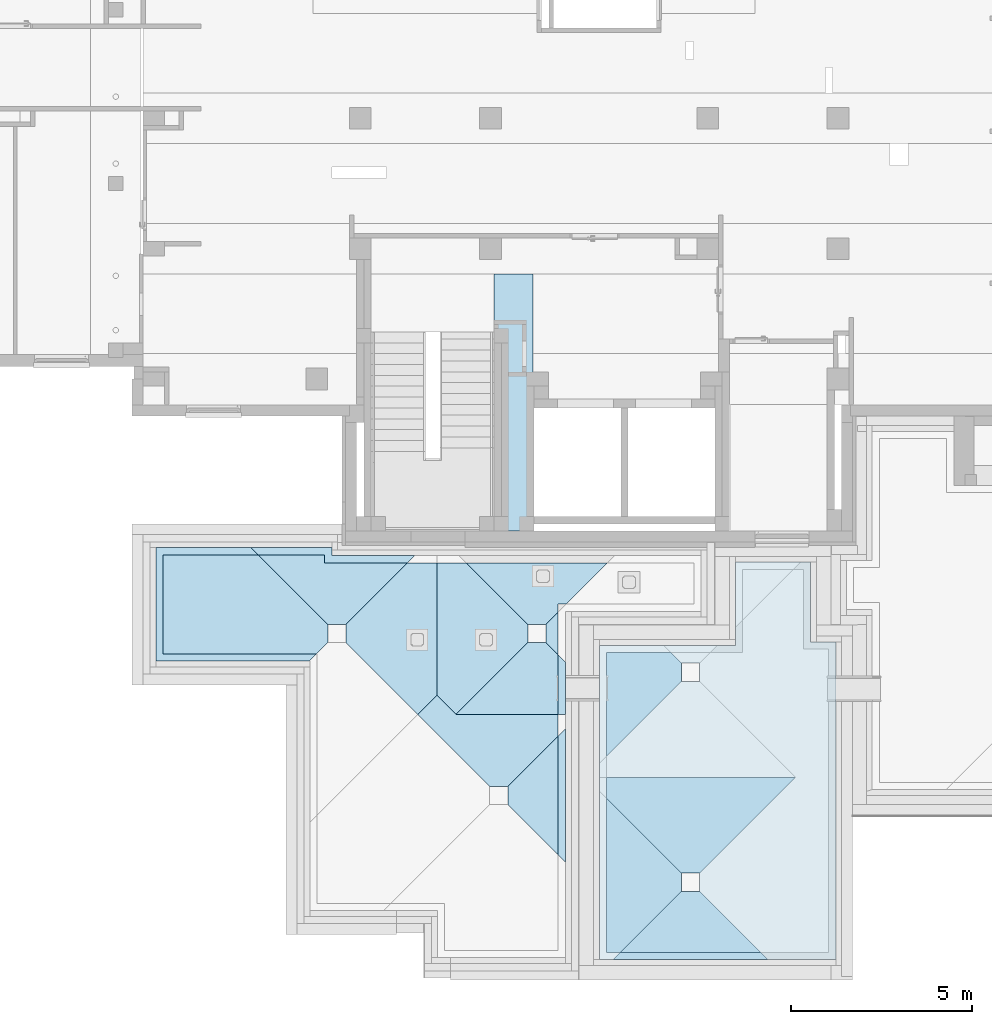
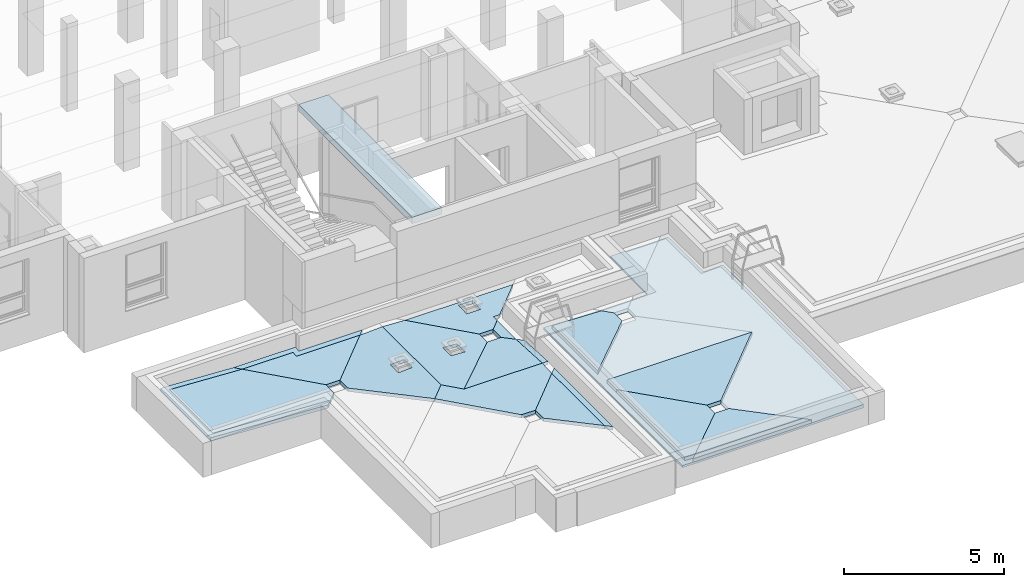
# One storey, part 4 of 50: 20 slabs, 4 elements without a shape of their own.
"""IFC4 building model written with IfcOpenShell, lengths in metres."""

from ifc_helpers import new_model, entity, si_unit, converted_unit, derived_unit, frame, frame_2d, origin, origin_with_axes, place, context, subcontext, project, spatial, polyline, rectangle, outline, extrude, clip, bounded_halfspace, material, layer, layer_set, layer_usage, element, aggregate, save


model = new_model("IFC4")

# Units and contexts
model_context = context("Model", 3, precision=1e-05, world=origin())
body_context = subcontext(model_context, "Body", "Model", "MODEL_VIEW")
ifc_project = project(units=[si_unit("LENGTHUNIT", "METRE"), si_unit("AREAUNIT", "SQUARE_METRE"), si_unit("VOLUMEUNIT", "CUBIC_METRE"), si_unit("MASSUNIT", "GRAM", prefix="KILO"), converted_unit("PLANEANGLEUNIT", "DEGREE", entity("IfcPlaneAngleMeasure", 0.0174532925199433), si_unit("PLANEANGLEUNIT", "RADIAN"), dimensions=[0, 0, 0, 0, 0, 0, 0]), derived_unit("THERMALTRANSMITTANCEUNIT", [(si_unit("POWERUNIT", "WATT"), 1), (si_unit("THERMODYNAMICTEMPERATUREUNIT", "KELVIN"), -1), (si_unit("LENGTHUNIT", "METRE"), -2)]), derived_unit("VOLUMETRICFLOWRATEUNIT", [(si_unit("LENGTHUNIT", "METRE"), 3), (converted_unit("TIMEUNIT", "hour", entity("IfcTimeMeasure", 3600.0), si_unit("TIMEUNIT", "SECOND"), dimensions=[0, 0, 1, 0, 0, 0, 0]), -1), (si_unit("LENGTHUNIT", "METRE"), -1)])], contexts=[model_context])

# Site, building, storey
site_placement = place(None, origin())
site = spatial("IfcSite", under=ifc_project, at=site_placement, Name="3. ASŘ", CompositionType="ELEMENT")
building_placement = place(site_placement, origin())
building = spatial("IfcBuilding", under=site, at=building_placement, Name="Pavilon C", CompositionType="ELEMENT")
storey_placement = place(building_placement, frame((0.0, 0.0, 3.6)))
storey = spatial("IfcBuildingStorey", under=building, at=storey_placement, Name="Půdorys 2.NP", CompositionType="ELEMENT", Elevation=3.6)

# Slab
ifc_material_1 = material(Name="VĚNEC")
slab_1_placement = place(storey_placement, frame((34.45, -4.19999999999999, 3.25)))
element("IfcSlab", 1, at=slab_1_placement, inside=storey, material=ifc_material_1, PredefinedType="FLOOR", context=body_context, shape_type="SweptSolid", body=[
    extrude(rectangle(XDim=7.09999999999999, YDim=1.07, at=frame_2d((-0.535, 3.55), x_axis=(0.0, 1.0))), frame((1.07, 0.0, 0.0), z_axis=(0.0, 0.0, 1.0), x_axis=(1.0, 0.0, 0.0)), (0.0, 0.0, 1.0), 0.25),
])

# Roof, slabs
roof_1_placement = place(storey_placement, frame((0.0, 0.0, -3.6)))
roof_1 = element("IfcRoof", 2, at=roof_1_placement, inside=storey, PredefinedType="NOTDEFINED")
ifc_material_2 = material(Name="ASFALTOVÁ HYDROIZOLACE")
ifc_layer_1 = layer(ifc_material_2, 0.01)
ifc_material_3 = material(Name="II.S2 - KAČÍREK")
ifc_layer_2 = layer(ifc_material_3, 0.12)
ifc_layer_set_1 = layer_set([ifc_layer_1, ifc_layer_2])
ifc_layer_usage_1 = layer_usage(ifc_layer_set_1, "AXIS3", "POSITIVE", 0.0)
slab_2_placement = place(roof_1_placement, frame((36.22, -13.3428061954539, 3.83304686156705)))
slab_2 = element("IfcSlab", 3, at=slab_2_placement, material=ifc_layer_usage_1, PredefinedType="ROOF", context=body_context, shape_type="SweptSolid", body=[
    extrude(outline(polyline([(-1.8438171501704, -0.100137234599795), (1.8438171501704, -0.100137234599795), (1.64381715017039, 0.100137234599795), (-1.6438171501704, 0.100137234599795), (-1.8438171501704, -0.100137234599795)])), frame((0.100000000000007, 1.8438171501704, 0.0052407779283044), z_axis=(-0.0523359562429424, -1.62762239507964e-19, 0.998629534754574), x_axis=(-3.10995061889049e-18, 1.0, 0.0)), (0.0, -0.0523359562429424, 0.998629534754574), 0.130178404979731),
])
ifc_material_4 = material(Name="ASFALTOVÁ HYDROIZOLACE")
ifc_layer_3 = layer(ifc_material_4, 0.01)
ifc_material_5 = material(Name="II.S2 - KAČÍREK")
ifc_layer_4 = layer(ifc_material_5, 0.12)
ifc_layer_set_2 = layer_set([ifc_layer_3, ifc_layer_4])
ifc_layer_usage_2 = layer_usage(ifc_layer_set_2, "AXIS3", "POSITIVE", 0.0)
slab_3_placement = place(roof_1_placement, frame((36.22, -9.26449541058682, 3.77781864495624)))
slab_3 = element("IfcSlab", 4, at=slab_3_placement, material=ifc_layer_usage_2, PredefinedType="ROOF", context=body_context, shape_type="SweptSolid", body=[
    extrude(outline(polyline([(-0.100000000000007, -0.773306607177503), (0.1, -0.773306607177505), (0.100000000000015, 0.673169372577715), (-0.1, 0.873443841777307), (-0.100000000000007, -0.773306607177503)])), frame((0.100000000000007, 0.77224681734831, 0.0457125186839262), z_axis=(-6.26113130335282e-16, 0.0523359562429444, 0.998629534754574), x_axis=(1.0, 1.19633455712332e-14, 0.0)), (0.0, -0.0523359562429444, 0.998629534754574), 0.130178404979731),
])
ifc_material_6 = material(Name="ASFALTOVÁ HYDROIZOLACE")
ifc_layer_5 = layer(ifc_material_6, 0.01)
ifc_material_7 = material(Name="II.S2 - KAČÍREK")
ifc_layer_6 = layer(ifc_material_7, 0.12)
ifc_layer_set_3 = layer_set([ifc_layer_5, ifc_layer_6])
ifc_layer_usage_3 = layer_usage(ifc_layer_set_3, "AXIS3", "POSITIVE", 0.0)
slab_4_placement = place(roof_1_placement, frame((27.7371938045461, -5.08, 3.84909331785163)))
slab_4 = element("IfcSlab", 5, at=slab_4_placement, material=ifc_layer_usage_3, PredefinedType="ROOF", context=body_context, shape_type="SweptSolid", body=[
    extrude(outline(polyline([(-2.32359956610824, 0.0100137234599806), (-0.0364022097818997, 0.0100137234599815), (-0.0364022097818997, -0.210288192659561), (2.19640398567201, -0.210288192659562), (1.996403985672, -0.010013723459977), (0.163597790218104, -0.0100137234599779), (0.163597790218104, 0.210288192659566), (-2.12359956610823, 0.210288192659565), (-2.32359956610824, 0.0100137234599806)])), frame((2.19640398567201, 0.210000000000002, 0.0110056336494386), z_axis=(-5.25388289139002e-18, -0.0523359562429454, 0.998629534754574), x_axis=(-1.0, 1.00387635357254e-16, 0.0)), (0.0, -0.0523359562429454, 0.998629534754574), 0.130178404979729),
])
ifc_material_8 = material(Name="ASFALTOVÁ HYDROIZOLACE")
ifc_layer_7 = layer(ifc_material_8, 0.01)
ifc_material_9 = material(Name="II.S2 - KAČÍREK")
ifc_layer_8 = layer(ifc_material_9, 0.12)
ifc_layer_set_4 = layer_set([ifc_layer_7, ifc_layer_8])
ifc_layer_usage_4 = layer_usage(ifc_layer_set_4, "AXIS3", "POSITIVE", 0.0)
slab_5_placement = place(roof_1_placement, frame((25.11, -7.79000000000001, 3.77624631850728)))
slab_5 = element("IfcSlab", 6, at=slab_5_placement, material=ifc_layer_usage_4, PredefinedType="ROOF", context=body_context, shape_type="SweptSolid", body=[
    extrude(outline(polyline([(-1.36500000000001, 1.01248358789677), (-1.56500000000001, 0.812209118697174), (-1.565, -1.81859010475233), (1.56500000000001, -1.81859010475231), (1.56499999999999, 2.42442215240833), (1.36499999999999, 2.62469662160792), (1.36500000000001, -1.61831563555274), (-1.365, -1.61831563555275), (-1.36500000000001, 1.01248358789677)])), frame((1.81609779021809, 1.56500000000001, 0.137366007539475), z_axis=(0.052335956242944, -2.64676689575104e-16, 0.998629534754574), x_axis=(-5.05726289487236e-15, -1.0, 0.0)), (0.0, -0.052335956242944, 0.998629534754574), 0.130178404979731),
])
aggregate(roof_1, [slab_2, slab_3, slab_4, slab_5])

roof_2_placement = place(storey_placement, frame((0.0, 0.0, -3.6)))
roof_2 = element("IfcRoof", 7, at=roof_2_placement, inside=storey, PredefinedType="NOTDEFINED")
ifc_material_10 = material(Name="ASFALTOVÁ HYDROIZOLACE")
ifc_layer_9 = layer(ifc_material_10, 0.01)
ifc_material_11 = material(Name="II.S1 - SOUVRSTVÍ ZELENÉ STŘECHY")
ifc_layer_10 = layer(ifc_material_11, 0.12)
ifc_layer_set_5 = layer_set([ifc_layer_9, ifc_layer_10])
ifc_layer_usage_5 = layer_usage(ifc_layer_set_5, "AXIS3", "POSITIVE", 0.0)
slab_6_placement = place(roof_2_placement, frame((34.8261828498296, -13.1428061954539, 3.76)))
slab_6 = element("IfcSlab", 8, at=slab_6_placement, material=ifc_layer_usage_5, PredefinedType="ROOF", context=body_context, shape_type="SweptSolid", body=[
    extrude(outline(polyline([(-0.249999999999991, 0.69786497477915), (-1.64381715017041, -0.697864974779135), (1.64381715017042, -0.697864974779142), (0.249999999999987, 0.697864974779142), (-0.249999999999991, 0.69786497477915)])), frame((0.696908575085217, 1.64381715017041, 0.0365234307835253), z_axis=(-0.0523359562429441, -1.93144452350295e-17, 0.998629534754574), x_axis=(-3.69047336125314e-16, 1.0, 0.0)), (0.0, -0.0523359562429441, 0.998629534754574), 0.130178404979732),
])
ifc_material_12 = material(Name="ASFALTOVÁ HYDROIZOLACE")
ifc_layer_11 = layer(ifc_material_12, 0.01)
ifc_material_13 = material(Name="II.S1 - SOUVRSTVÍ ZELENÉ STŘECHY")
ifc_layer_12 = layer(ifc_material_13, 0.12)
ifc_layer_set_6 = layer_set([ifc_layer_11, ifc_layer_12])
ifc_layer_usage_6 = layer_usage(ifc_layer_set_6, "AXIS3", "POSITIVE", 0.0)
slab_7_placement = place(roof_2_placement, frame((32.3416892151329, -11.2489890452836, 3.76)))
slab_7 = element("IfcSlab", 9, at=slab_7_placement, material=ifc_layer_usage_6, PredefinedType="ROOF", context=body_context, shape_type="SweptSolid", body=[
    extrude(outline(polyline([(-1.90597727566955, -0.576898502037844), (0.918516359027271, -0.576898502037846), (1.44542493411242, -1.10453017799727), (1.9723335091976, -0.576898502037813), (-0.0121601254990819, 1.41031854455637), (-0.512160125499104, 1.41031854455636), (-1.90597727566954, 0.0145885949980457), (-1.90597727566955, -0.576898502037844)])), frame((1.9723335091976, 1.40838575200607, 0.0738103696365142), z_axis=(2.24823732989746e-16, -0.0523359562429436, 0.998629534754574), x_axis=(-1.0, -4.29577959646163e-15, 0.0)), (0.0, -0.0523359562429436, 0.998629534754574), 0.130178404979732),
])
ifc_material_14 = material(Name="ASFALTOVÁ HYDROIZOLACE")
ifc_layer_13 = layer(ifc_material_14, 0.01)
ifc_material_15 = material(Name="II.S1 - SOUVRSTVÍ ZELENÉ STŘECHY")
ifc_layer_14 = layer(ifc_material_15, 0.12)
ifc_layer_set_7 = layer_set([ifc_layer_13, ifc_layer_14])
ifc_layer_usage_7 = layer_usage(ifc_layer_set_7, "AXIS3", "POSITIVE", 0.0)
slab_8_placement = place(roof_2_placement, frame((33.3955063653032, -9.26449541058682, 3.76)))
slab_8 = element("IfcSlab", 10, at=slab_8_placement, material=ifc_layer_usage_7, PredefinedType="ROOF", context=body_context, shape_type="SweptSolid", body=[
    extrude(outline(polyline([(0.800898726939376, 0.522513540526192), (0.46089872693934, 0.862980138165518), (-0.0391012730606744, 0.862980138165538), (-2.02359490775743, -1.12423690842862), (0.800898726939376, -1.12423690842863), (0.800898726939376, 0.522513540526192)])), frame((2.02359490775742, 1.12269618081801, 0.0451648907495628), z_axis=(-2.32473235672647e-16, 0.0523359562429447, 0.998629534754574), x_axis=(1.0, 4.44194111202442e-15, 0.0)), (0.0, -0.0523359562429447, 0.998629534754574), 0.13017840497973),
])
ifc_material_16 = material(Name="ASFALTOVÁ HYDROIZOLACE")
ifc_layer_15 = layer(ifc_material_16, 0.01)
ifc_material_17 = material(Name="II.S1 - SOUVRSTVÍ ZELENÉ STŘECHY")
ifc_layer_16 = layer(ifc_material_17, 0.12)
ifc_layer_set_8 = layer_set([ifc_layer_15, ifc_layer_16])
ifc_layer_usage_8 = layer_usage(ifc_layer_set_8, "AXIS3", "POSITIVE", 0.0)
slab_9_placement = place(roof_2_placement, frame((33.6799982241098, -6.78000177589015, 3.76)))
slab_9 = element("IfcSlab", 11, at=slab_9_placement, material=ifc_layer_usage_8, PredefinedType="ROOF", context=body_context, shape_type="SweptSolid", body=[
    extrude(outline(polyline([(2.19272921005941, -0.775608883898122), (0.492727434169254, 0.926725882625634), (-0.00727256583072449, 0.926725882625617), (-0.34727256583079, 0.586259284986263), (-0.34727256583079, 0.365955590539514), (-0.56727434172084, 0.365955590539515), (-1.70727434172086, -0.775608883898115), (2.19272921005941, -0.775608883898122)]), holes=[polyline([(0.322547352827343, -0.154938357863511), (0.322547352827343, -0.655263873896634), (-0.177092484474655, -0.655263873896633), (-0.177092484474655, -0.154938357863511), (0.322547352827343, -0.154938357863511)])]), frame((2.19272921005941, 0.925455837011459, 0.0485010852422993), z_axis=(9.3575335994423e-17, -0.0523359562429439, 0.998629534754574), x_axis=(-1.0, -1.78797413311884e-15, 0.0)), (0.0, -0.0523359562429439, 0.998629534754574), 0.130178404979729),
])
ifc_material_18 = material(Name="ASFALTOVÁ HYDROIZOLACE")
ifc_layer_17 = layer(ifc_material_18, 0.01)
ifc_material_19 = material(Name="II.S1 - SOUVRSTVÍ ZELENÉ STŘECHY")
ifc_layer_18 = layer(ifc_material_19, 0.12)
ifc_layer_set_9 = layer_set([ifc_layer_17, ifc_layer_18])
ifc_layer_usage_9 = layer_usage(ifc_layer_set_9, "AXIS3", "POSITIVE", 0.0)
slab_10_placement = place(roof_2_placement, frame((32.8685977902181, -9.26449541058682, 3.76)))
slab_10 = element("IfcSlab", 12, at=slab_10_placement, material=ifc_layer_usage_9, PredefinedType="ROOF", context=body_context, shape_type="SweptSolid", body=[
    extrude(outline(polyline([(-2.02220857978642, -1.18028977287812), (1.63537825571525, -1.18028977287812), (2.16228683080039, -0.652658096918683), (0.177793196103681, 1.33455894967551), (-0.322206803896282, 1.33455894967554), (-2.02220857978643, -0.367775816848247), (-2.02220857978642, -1.18028977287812)]), holes=[polyline([(-0.152028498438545, 0.428136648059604), (0.347611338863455, 0.428136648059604), (0.347611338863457, -0.0721888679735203), (-0.152028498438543, -0.072188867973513), (-0.152028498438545, 0.428136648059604)])]), frame((1.17867222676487, 2.16228683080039, 0.0698454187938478), z_axis=(0.0523359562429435, -2.5732516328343e-16, 0.998629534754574), x_axis=(-4.91679491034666e-15, -1.0, 0.0)), (0.0, -0.0523359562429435, 0.998629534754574), 0.130178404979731),
])
ifc_material_20 = material(Name="ASFALTOVÁ HYDROIZOLACE")
ifc_layer_19 = layer(ifc_material_20, 0.01)
ifc_material_21 = material(Name="II.S1 - SOUVRSTVÍ ZELENÉ STŘECHY")
ifc_layer_20 = layer(ifc_material_21, 0.12)
ifc_layer_set_10 = layer_set([ifc_layer_19, ifc_layer_20])
ifc_layer_usage_10 = layer_usage(ifc_layer_set_10, "AXIS3", "POSITIVE", 0.0)
slab_11_placement = place(roof_2_placement, frame((30.3571955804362, -9.26449541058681, 3.76)))
slab_11 = element("IfcSlab", 13, at=slab_11_placement, material=ifc_layer_usage_10, PredefinedType="ROOF", context=body_context, shape_type="SweptSolid", body=[
    extrude(outline(polyline([(2.02220857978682, -0.0422078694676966), (0.322206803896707, 1.66012689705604), (-0.177793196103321, 1.66012689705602), (-2.16228683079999, -0.327090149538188), (-1.63537825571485, -0.854721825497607), (2.02220857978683, -0.854721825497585), (2.02220857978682, -0.0422078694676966)]), holes=[polyline([(-0.347611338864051, -0.560540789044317), (-0.347611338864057, -0.0602152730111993), (0.152028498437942, -0.0602152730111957), (0.152028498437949, -0.560540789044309), (-0.347611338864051, -0.560540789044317)])]), frame((1.65785175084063, 2.16228683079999, 0.0868843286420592), z_axis=(-0.0523359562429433, 6.35933558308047e-16, 0.998629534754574), x_axis=(1.21509876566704e-14, 1.0, 0.0)), (0.0, -0.0523359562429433, 0.998629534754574), 0.130178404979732),
])
ifc_material_22 = material(Name="ASFALTOVÁ HYDROIZOLACE")
ifc_layer_21 = layer(ifc_material_22, 0.01)
ifc_material_23 = material(Name="II.S1 - SOUVRSTVÍ ZELENÉ STŘECHY")
ifc_layer_22 = layer(ifc_material_23, 0.12)
ifc_layer_set_11 = layer_set([ifc_layer_21, ifc_layer_22])
ifc_layer_usage_11 = layer_usage(ifc_layer_set_11, "AXIS3", "POSITIVE", 0.0)
slab_12_placement = place(roof_2_placement, frame((27.9371938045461, -6.78000177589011, 3.76)))
slab_12 = element("IfcSlab", 14, at=slab_12_placement, material=ifc_layer_usage_11, PredefinedType="ROOF", context=body_context, shape_type="SweptSolid", body=[
    extrude(outline(polyline([(2.02093658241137, -0.714312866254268), (0.100934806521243, 1.20832381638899), (-0.399065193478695, 1.20832381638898), (-2.09906696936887, -0.494010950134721), (0.188130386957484, -0.494010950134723), (0.188130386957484, -0.714312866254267), (2.02093658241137, -0.714312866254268)])), frame((2.02093658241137, 1.20666785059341, 0.0632387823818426), z_axis=(5.02737731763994e-17, -0.0523359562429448, 0.998629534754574), x_axis=(-1.0, -9.60597202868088e-16, 0.0)), (0.0, -0.0523359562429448, 0.998629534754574), 0.13017840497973),
])
ifc_material_24 = material(Name="ASFALTOVÁ HYDROIZOLACE")
ifc_layer_23 = layer(ifc_material_24, 0.01)
ifc_material_25 = material(Name="II.S1 - SOUVRSTVÍ ZELENÉ STŘECHY")
ifc_layer_24 = layer(ifc_material_25, 0.12)
ifc_layer_set_12 = layer_set([ifc_layer_23, ifc_layer_24])
ifc_layer_usage_12 = layer_usage(ifc_layer_set_12, "AXIS3", "POSITIVE", 0.0)
slab_13_placement = place(roof_2_placement, frame((25.31, -7.59000000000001, 3.76)))
slab_13 = element("IfcSlab", 15, at=slab_13_placement, material=ifc_layer_usage_12, PredefinedType="ROOF", context=body_context, shape_type="SweptSolid", body=[
    extrude(outline(polyline([(1.0966660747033, 1.57956504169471), (0.786667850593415, 1.88998869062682), (0.286667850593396, 1.88998869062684), (-1.63333392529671, -0.0326479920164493), (-1.6333339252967, -2.66344721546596), (1.09666607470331, -2.66344721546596), (1.0966660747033, 1.57956504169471)])), frame((2.65979705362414, 1.0966660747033, 0.0989143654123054), z_axis=(0.0523359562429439, -1.04374779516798e-16, 0.998629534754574), x_axis=(-1.99432258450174e-15, -1.0, 0.0)), (0.0, -0.052335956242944, 0.998629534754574), 0.130178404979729),
])
ifc_material_26 = material(Name="ASFALTOVÁ HYDROIZOLACE")
ifc_layer_25 = layer(ifc_material_26, 0.01)
ifc_material_27 = material(Name="II.S1 - SOUVRSTVÍ ZELENÉ STŘECHY")
ifc_layer_26 = layer(ifc_material_27, 0.12)
ifc_layer_set_13 = layer_set([ifc_layer_25, ifc_layer_26])
ifc_layer_usage_13 = layer_usage(ifc_layer_set_13, "AXIS3", "POSITIVE", 0.0)
slab_14_placement = place(roof_2_placement, frame((35.88, -7.62000177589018, 3.76)))
slab_14 = element("IfcSlab", 16, at=slab_14_placement, material=ifc_layer_usage_13, PredefinedType="ROOF", context=body_context, shape_type="SweptSolid", body=[
    extrude(outline(polyline([(-0.590000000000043, -0.170233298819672), (0.590000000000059, -0.170233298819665), (0.250000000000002, 0.170233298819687), (-0.250000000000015, 0.170233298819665), (-0.590000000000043, -0.170233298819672)])), frame((0.170000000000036, 0.590000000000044, 0.00890932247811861), z_axis=(-0.0523359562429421, 3.5768769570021e-16, 0.998629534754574), x_axis=(6.83445419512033e-15, 1.0, 0.0)), (0.0, -0.0523359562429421, 0.998629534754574), 0.13017840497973),
])
aggregate(roof_2, [slab_6, slab_7, slab_8, slab_9, slab_10, slab_11, slab_12, slab_13, slab_14])

roof_3_placement = place(storey_placement, frame((0.0, 0.0, -3.6)))
roof_3 = element("IfcRoof", 17, at=roof_3_placement, inside=storey, PredefinedType="NOTDEFINED")
ifc_material_28 = material(Name="ASFALTOVÁ HYDROIZOLACE")
ifc_layer_27 = layer(ifc_material_28, 0.01)
ifc_material_29 = material(Name="SOUVRSTVÍ ZELENÉ STŘECHY")
ifc_layer_28 = layer(ifc_material_29, 0.12)
ifc_layer_set_14 = layer_set([ifc_layer_27, ifc_layer_28])
ifc_layer_usage_14 = layer_usage(ifc_layer_set_14, "AXIS3", "POSITIVE", 0.0)
slab_15_placement = place(roof_3_placement, frame((37.56, -10.415, 3.73)))
slab_15 = element("IfcSlab", 18, at=slab_15_placement, material=ifc_layer_usage_14, PredefinedType="ROOF", context=body_context, shape_type="SweptSolid", body=[
    extrude(outline(polyline([(-0.786999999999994, -1.18153133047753), (2.06799999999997, -1.18153133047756), (0.00299999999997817, 0.884397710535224), (-0.496999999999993, 0.884397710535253), (-0.78699999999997, 0.594267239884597), (-0.786999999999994, -1.18153133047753)])), frame((1.181, 2.06799999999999, 0.0265200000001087), z_axis=(0.0299865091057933, 4.00691113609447e-16, 0.999550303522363), x_axis=(1.33623794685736e-14, -1.0, 0.0)), (0.0, -0.0299865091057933, 0.999550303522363), 0.130058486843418),
])
ifc_material_30 = material(Name="ASFALTOVÁ HYDROIZOLACE")
ifc_layer_29 = layer(ifc_material_30, 0.01)
ifc_material_31 = material(Name="SOUVRSTVÍ ZELENÉ STŘECHY")
ifc_layer_30 = layer(ifc_material_31, 0.12)
ifc_layer_set_15 = layer_set([ifc_layer_29, ifc_layer_30])
ifc_layer_usage_15 = layer_usage(ifc_layer_set_15, "AXIS3", "POSITIVE", 0.0)
slab_16_placement = place(roof_3_placement, frame((37.56, -13.65, 3.73)))
slab_16 = element("IfcSlab", 19, at=slab_16_placement, material=ifc_layer_usage_15, PredefinedType="ROOF", context=body_context, shape_type="SweptSolid", body=[
    extrude(outline(polyline([(1.969, -0.592266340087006), (-0.0960000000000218, 1.47366270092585), (-0.595999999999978, 1.47366270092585), (-3.24600000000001, -1.17752953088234), (1.969, -1.17752953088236), (1.969, -0.592266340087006)])), frame((1.96900000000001, 1.47300000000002, 0.0441900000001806), z_axis=(1.35733761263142e-16, -0.0299865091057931, 0.999550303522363), x_axis=(-1.0, -4.52649425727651e-15, 0.0)), (0.0, -0.0299865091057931, 0.999550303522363), 0.13005848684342),
])
ifc_material_32 = material(Name="ASFALTOVÁ HYDROIZOLACE")
ifc_layer_31 = layer(ifc_material_32, 0.01)
ifc_material_33 = material(Name="SOUVRSTVÍ ZELENÉ STŘECHY")
ifc_layer_32 = layer(ifc_material_33, 0.12)
ifc_layer_set_16 = layer_set([ifc_layer_31, ifc_layer_32])
ifc_layer_usage_16 = layer_usage(ifc_layer_set_16, "AXIS3", "POSITIVE", 0.0)
slab_17_placement = place(roof_3_placement, frame((37.935, -15.84, 3.73)))
slab_17 = element("IfcSlab", 20, at=slab_17_placement, material=ifc_layer_usage_16, PredefinedType="ROOF", context=body_context, shape_type="SweptSolid", body=[
    extrude(outline(polyline([(1.94000000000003, -0.845380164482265), (0.249999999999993, 0.845380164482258), (-0.25, 0.845380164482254), (-1.94000000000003, -0.845380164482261), (1.94000000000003, -0.845380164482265)])), frame((1.94000000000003, 0.845000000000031, 0.025350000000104), z_axis=(-2.52257712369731e-17, 0.0299865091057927, 0.999550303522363), x_axis=(1.0, 8.41237342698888e-16, 0.0)), (0.0, -0.0299865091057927, 0.999550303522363), 0.130058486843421),
])
ifc_material_34 = material(Name="ASFALTOVÁ HYDROIZOLACE")
ifc_layer_33 = layer(ifc_material_34, 0.01)
ifc_material_35 = material(Name="SOUVRSTVÍ ZELENÉ STŘECHY")
ifc_layer_34 = layer(ifc_material_35, 0.12)
ifc_layer_set_17 = layer_set([ifc_layer_33, ifc_layer_34])
ifc_layer_usage_17 = layer_usage(ifc_layer_set_17, "AXIS3", "POSITIVE", 0.0)
slab_18_placement = place(roof_3_placement, frame((37.56, -15.84, 3.73)))
slab_18 = element("IfcSlab", 21, at=slab_18_placement, material=ifc_layer_usage_17, PredefinedType="ROOF", context=body_context, shape_type="SweptSolid", body=[
    extrude(outline(polyline([(1.62700000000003, -0.526236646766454), (-0.06300000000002, 1.16452368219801), (-0.563000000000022, 1.16452368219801), (-2.62800000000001, -0.901405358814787), (1.62700000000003, -0.901405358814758), (1.62700000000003, -0.526236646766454)])), frame((0.900999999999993, 1.62700000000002, 0.0349200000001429), z_axis=(0.0299865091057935, -2.20643743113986e-16, 0.999550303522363), x_axis=(-7.35810034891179e-15, -1.0, 0.0)), (0.0, -0.0299865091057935, 0.999550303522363), 0.13005848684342),
])
aggregate(roof_3, [slab_15, slab_16, slab_17, slab_18])

# Roof, slab
roof_4_placement = place(storey_placement, frame((0.0, 0.0, -3.6)))
roof_4 = element("IfcRoof", 22, at=roof_4_placement, inside=storey, PredefinedType="NOTDEFINED")
ifc_material_36 = material(Name="ASFALTOVÁ HYDROIZOLACE")
ifc_layer_35 = layer(ifc_material_36, 0.01)
ifc_material_37 = material(Name="KAČÍREK")
ifc_layer_36 = layer(ifc_material_37, 0.12)
ifc_layer_set_18 = layer_set([ifc_layer_35, ifc_layer_36])
ifc_layer_usage_18 = layer_usage(ifc_layer_set_18, "AXIS3", "POSITIVE", 0.0)
slab_19_placement = place(roof_4_placement, frame((37.735, -16.04, 3.78070000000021)))
slab_19 = element("IfcSlab", 23, at=slab_19_placement, material=ifc_layer_usage_18, PredefinedType="ROOF", context=body_context, shape_type="SweptSolid", body=[
    extrude(outline(polyline([(-1.94000000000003, 0.100044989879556), (-2.14000000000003, -0.100044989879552), (2.14000000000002, -0.10004498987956), (1.94000000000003, 0.100044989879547), (-1.94000000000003, 0.100044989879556)])), frame((2.14000000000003, 0.100000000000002, 0.00300000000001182), z_axis=(-4.90193272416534e-17, 0.0299865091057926, 0.999550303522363), x_axis=(1.0, 1.63471269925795e-15, 0.0)), (0.0, -0.0299865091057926, 0.999550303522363), 0.130058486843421),
])
aggregate(roof_4, [slab_19])

# Slab
ifc_material_38 = material(Name="SPÁDOVÉ KLÍNY PIR 3%")
slab_20_placement = place(storey_placement, frame((37.36, -16.04, 0.11)))
element("IfcSlab", 24, at=slab_20_placement, inside=storey, material=ifc_material_38, PredefinedType="FLOOR", context=body_context, shape_type="Clipping", body=[
    clip(clip(extrude(outline(polyline([(7.27595761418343e-15, 4.65500000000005), (0.0, 0.0), (0.374999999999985, 0.0), (2.265, 1.89000000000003), (2.265, 2.39000000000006), (7.27595761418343e-15, 4.65500000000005)])), origin_with_axes(), (0.0, 0.0, 1.0), 0.13295000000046), bounded_halfspace(frame((0.981, 1.78700000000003, 9.09494701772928e-16), z_axis=(1.02759585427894e-16, 9.5351017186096e-18, 1.0), x_axis=(1.0, 0.0, 0.0)), True, origin_with_axes(), polyline([(7.27595761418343e-15, 4.65500000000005), (0.0, 0.0), (0.374999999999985, 0.0), (2.265, 1.89000000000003), (2.265, 2.39000000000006), (7.27595761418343e-15, 4.65500000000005)]))), bounded_halfspace(frame((0.981, 1.78700000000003, 0.0585200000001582), z_axis=(-0.0299865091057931, 1.00892689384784e-16, -0.999550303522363), x_axis=(3.36460269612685e-15, 1.0, 0.0)), True, origin_with_axes(), polyline([(7.27595761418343e-15, 4.65500000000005), (0.0, 0.0), (0.374999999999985, 0.0), (2.265, 1.89000000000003), (2.265, 2.39000000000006), (7.27595761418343e-15, 4.65500000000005)]))),
    clip(clip(extrude(outline(polyline([(0.0, 0.0), (4.28000000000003, 0.0), (2.39000000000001, 1.89000000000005), (1.89000000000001, 1.89000000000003), (0.0, 0.0)])), frame((0.374999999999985, 0.0, 0.0), z_axis=(0.0, 0.0, 1.0), x_axis=(1.0, 0.0, 0.0)), (0.0, 0.0, 1.0), 0.13295000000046), bounded_halfspace(frame((2.515, 0.945000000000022, 4.54747350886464e-16), z_axis=(1.02759585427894e-16, 9.5351017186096e-18, 1.0), x_axis=(1.0, 0.0, 0.0)), True, origin_with_axes(), polyline([(0.374999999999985, 0.0), (4.65500000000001, 0.0), (2.765, 1.89000000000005), (2.265, 1.89000000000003), (0.374999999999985, 0.0)]))), bounded_halfspace(frame((2.515, 0.945000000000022, 0.0483500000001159), z_axis=(-2.89443904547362e-16, -0.0299865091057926, -0.999550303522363), x_axis=(-1.0, 9.65247083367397e-15, 0.0)), True, origin_with_axes(), polyline([(0.374999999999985, 0.0), (4.65500000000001, 0.0), (2.765, 1.89000000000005), (2.265, 1.89000000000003), (0.374999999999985, 0.0)]))),
    clip(clip(extrude(outline(polyline([(1.77500000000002, 3.25500000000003), (7.27595761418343e-15, 3.25500000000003), (0.0, 0.0), (2.26500000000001, 2.26500000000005), (2.26500000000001, 2.76500000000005), (1.77500000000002, 3.25500000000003)])), frame((7.27595761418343e-15, 5.425, 0.0), z_axis=(0.0, 0.0, 1.0), x_axis=(1.0, 0.0, 0.0)), (0.0, 0.0, 1.0), 0.13295000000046), bounded_halfspace(frame((1.26100000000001, 7.73300000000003, 4.54747350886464e-16), z_axis=(1.02759585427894e-16, 9.5351017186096e-18, 1.0), x_axis=(1.0, 0.0, 0.0)), True, origin_with_axes(), polyline([(1.77500000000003, 8.68000000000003), (1.45519152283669e-14, 8.68000000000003), (7.27595761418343e-15, 5.425), (2.26500000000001, 7.69000000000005), (2.26500000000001, 8.19000000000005), (1.77500000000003, 8.68000000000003)]))), bounded_halfspace(frame((1.26100000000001, 7.73300000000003, 0.050120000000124), z_axis=(-0.029986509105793, -4.55299953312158e-16, -0.999550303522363), x_axis=(-1.51834930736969e-14, 1.0, 0.0)), True, origin_with_axes(), polyline([(1.77500000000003, 8.68000000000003), (1.45519152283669e-14, 8.68000000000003), (7.27595761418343e-15, 5.425), (2.26500000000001, 7.69000000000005), (2.26500000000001, 8.19000000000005), (1.77500000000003, 8.68000000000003)]))),
    clip(clip(extrude(outline(polyline([(1.47999999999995, 0.489999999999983), (0.0, 0.489999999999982), (0.489999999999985, 0.0), (0.989999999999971, 0.0), (1.47999999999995, 0.489999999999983)])), frame((1.77500000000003, 8.19000000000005, 0.0), z_axis=(0.0, 0.0, 1.0), x_axis=(1.0, 0.0, 0.0)), (0.0, 0.0, 1.0), 0.13295000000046), bounded_halfspace(frame((2.51500000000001, 8.43500000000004, 4.54747350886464e-16), z_axis=(1.02759585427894e-16, 9.5351017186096e-18, 1.0), x_axis=(1.0, 0.0, 0.0)), True, origin_with_axes(), polyline([(3.25499999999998, 8.68000000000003), (1.77500000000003, 8.68000000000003), (2.26500000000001, 8.19000000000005), (2.765, 8.19000000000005), (3.25499999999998, 8.68000000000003)]))), bounded_halfspace(frame((2.51500000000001, 8.43500000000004, 0.0273500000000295), z_axis=(-2.0656353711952e-15, 0.0299865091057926, -0.999550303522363), x_axis=(1.0, 6.8885489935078e-14, 0.0)), True, origin_with_axes(), polyline([(3.25499999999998, 8.68000000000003), (1.77500000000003, 8.68000000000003), (2.26500000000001, 8.19000000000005), (2.765, 8.19000000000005), (3.25499999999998, 8.68000000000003)]))),
    clip(clip(extrude(outline(polyline([(0.0, 0.384999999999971), (0.0, 5.45696821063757e-15), (5.41499999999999, 0.0), (2.76499999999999, 2.65000000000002), (2.26500000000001, 2.65000000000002), (0.0, 0.384999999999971)])), frame((7.27595761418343e-15, 5.04000000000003, 0.0), z_axis=(0.0, 0.0, 1.0), x_axis=(1.0, 0.0, 0.0)), (0.0, 0.0, 1.0), 0.13295000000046), bounded_halfspace(frame((2.08900000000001, 6.17700000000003, 4.54747350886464e-16), z_axis=(1.02759585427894e-16, 9.5351017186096e-18, 1.0), x_axis=(1.0, 0.0, 0.0)), True, origin_with_axes(), polyline([(7.27595761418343e-15, 5.425), (7.27595761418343e-15, 5.04000000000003), (5.415, 5.04000000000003), (2.765, 7.69000000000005), (2.26500000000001, 7.69000000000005), (7.27595761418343e-15, 5.425)]))), bounded_halfspace(frame((2.08900000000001, 6.17700000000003, 0.0653900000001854), z_axis=(-6.8278006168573e-16, -0.0299865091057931, -0.999550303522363), x_axis=(-1.0, 2.27695747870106e-14, 0.0)), True, origin_with_axes(), polyline([(7.27595761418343e-15, 5.425), (7.27595761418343e-15, 5.04000000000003), (5.415, 5.04000000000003), (2.765, 7.69000000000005), (2.26500000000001, 7.69000000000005), (7.27595761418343e-15, 5.425)]))),
    clip(clip(extrude(outline(polyline([(0.0, 2.64999999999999), (0.0, 2.26500000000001), (2.26499999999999, 1.45519152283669e-14), (2.76499999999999, 0.0), (5.41499999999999, 2.64999999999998), (0.0, 2.64999999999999)])), frame((7.27595761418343e-15, 2.39000000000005, 0.0), z_axis=(0.0, 0.0, 1.0), x_axis=(1.0, 0.0, 0.0)), (0.0, 0.0, 1.0), 0.13295000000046), bounded_halfspace(frame((2.089, 3.90300000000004, 4.54747350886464e-16), z_axis=(1.02759585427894e-16, 9.5351017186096e-18, 1.0), x_axis=(1.0, 0.0, 0.0)), True, origin_with_axes(), polyline([(7.27595761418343e-15, 5.04000000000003), (7.27595761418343e-15, 4.65500000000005), (2.265, 2.39000000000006), (2.765, 2.39000000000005), (5.415, 5.04000000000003), (7.27595761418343e-15, 5.04000000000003)]))), bounded_halfspace(frame((2.089, 3.90300000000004, 0.0653900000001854), z_axis=(-4.53785362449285e-16, 0.0299865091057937, -0.999550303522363), x_axis=(1.0, 1.51329839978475e-14, 0.0)), True, origin_with_axes(), polyline([(7.27595761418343e-15, 5.04000000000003), (7.27595761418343e-15, 4.65500000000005), (2.265, 2.39000000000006), (2.765, 2.39000000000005), (5.415, 5.04000000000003), (7.27595761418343e-15, 5.04000000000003)]))),
    clip(clip(extrude(outline(polyline([(0.985, 9.17500000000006), (0.985, 8.68000000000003), (0.489999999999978, 8.68000000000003), (0.0, 8.19000000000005), (0.0, 7.69000000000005), (2.65, 5.04000000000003), (0.0, 2.39000000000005), (0.0, 1.89000000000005), (1.89000000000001, 0.0), (3.765, 0.0), (3.765, 8.78000000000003), (3.065, 8.78000000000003), (3.065, 10.98), (2.78999999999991, 10.98), (0.985, 9.17500000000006)])), frame((2.765, 0.0, 0.0), z_axis=(0.0, 0.0, 1.0), x_axis=(1.0, 0.0, 0.0)), (0.0, 0.0, 1.0), 0.13295000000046), bounded_halfspace(frame((4.44, 6.51821428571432, 4.54747350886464e-16), z_axis=(1.02759585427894e-16, 9.5351017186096e-18, 1.0), x_axis=(1.0, 0.0, 0.0)), True, origin_with_axes(), polyline([(3.75, 9.17500000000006), (3.75, 8.68000000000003), (3.25499999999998, 8.68000000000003), (2.765, 8.19000000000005), (2.765, 7.69000000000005), (5.415, 5.04000000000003), (2.765, 2.39000000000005), (2.765, 1.89000000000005), (4.65500000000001, 0.0), (6.53, 0.0), (6.53, 8.78000000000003), (5.83, 8.78000000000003), (5.83, 10.98), (5.55499999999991, 10.98), (3.75, 9.17500000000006)]))), bounded_halfspace(frame((4.44, 6.51821428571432, 0.0702500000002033), z_axis=(0.0299865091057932, -1.03929125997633e-16, -0.999550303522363), x_axis=(-3.46586278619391e-15, -1.0, 0.0)), True, origin_with_axes(), polyline([(3.75, 9.17500000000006), (3.75, 8.68000000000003), (3.25499999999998, 8.68000000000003), (2.765, 8.19000000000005), (2.765, 7.69000000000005), (5.415, 5.04000000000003), (2.765, 2.39000000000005), (2.765, 1.89000000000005), (4.65500000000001, 0.0), (6.53, 0.0), (6.53, 8.78000000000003), (5.83, 8.78000000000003), (5.83, 10.98), (5.55499999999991, 10.98), (3.75, 9.17500000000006)]))),
    clip(clip(extrude(outline(polyline([(1.80499999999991, 1.80499999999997), (1.45519152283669e-14, 1.80499999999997), (0.0, 0.0), (1.80499999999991, 1.80499999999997)])), frame((3.75, 9.17500000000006, 0.0), z_axis=(0.0, 0.0, 1.0), x_axis=(1.0, 0.0, 0.0)), (0.0, 0.0, 1.0), 0.13295000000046), bounded_halfspace(frame((4.35166666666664, 10.3783333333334, 4.54747350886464e-16), z_axis=(1.02759585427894e-16, 9.5351017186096e-18, 1.0), x_axis=(1.0, 0.0, 0.0)), True, origin_with_axes(), polyline([(5.55499999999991, 10.98), (3.75000000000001, 10.98), (3.75, 9.17500000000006), (5.55499999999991, 10.98)]))), bounded_halfspace(frame((4.35166666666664, 10.3783333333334, 0.0856500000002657), z_axis=(-1.25791234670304e-15, 0.0299865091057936, -0.999550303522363), x_axis=(1.0, 4.19492759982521e-14, 0.0)), True, origin_with_axes(), polyline([(5.55499999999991, 10.98), (3.75000000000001, 10.98), (3.75, 9.17500000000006), (5.55499999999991, 10.98)]))),
])

save(model, "model.ifc")
